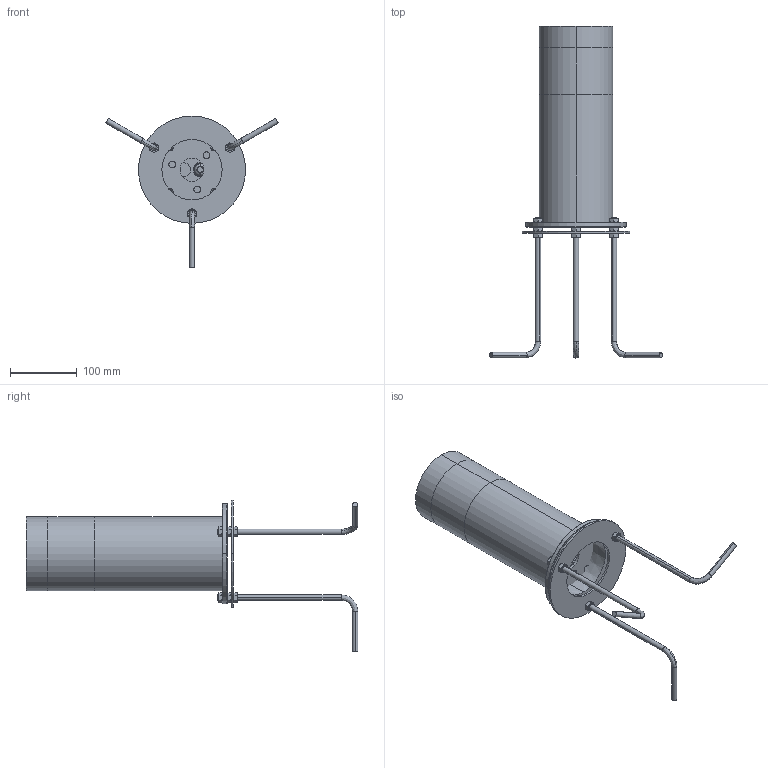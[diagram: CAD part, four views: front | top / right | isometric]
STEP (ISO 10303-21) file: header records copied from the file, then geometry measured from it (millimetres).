
FILE_DESCRIPTION((''),'2;1');
FILE_NAME('D9ADDENGTI_ASM_29_ASM','2024-09-20T',('C028'),(''),'CREO PARAMETRIC BY PTC INC, 2014190','CREO PARAMETRIC BY PTC INC, 2014190','');
FILE_SCHEMA(('CONFIG_CONTROL_DESIGN'));
Products named in the file (34): 9AD-07_300_11; 9AD-09GUDINGZUO_6; 9AB-04DUDINGZUOFANGSHUIQUAN_4; 9AB-03DUDINGZUOHOUGAI_4; PAD_1_135_2; FANGUANGSAI-1_1_135_2; FANGSHUISAI_1_135_2; PG9_ASM_1_ASM_135_ASM_2_ASM; PG9_ASM_2_ASM; 9AR-06TOUGUANGZHAODIZUO_12; 9AC-01SAIREBAN_4; PCB-00_7_5; M254_2; DIANPIAM_1; M3X501_1_6_9; M412MM_2; 2ISPINGDIAN_3; 9AD-10TOUGUANGZHAO_5; 9AD-12_6; M3_20_5_2; M4X12MM_3_1_1_2_2; HEP; ZHI_JIA_12; 0827_ASM; D9AD_ASM_11_ASM; 9AD-04_12; 9AD-01SHANGHAI_14; LI_BAN; 9AB_FA_LAN_PAN_56; 9AB-11_4__ANY_; M8LUOMU_3__ANY_; 9AB-10_5__ANY_; 9ABDIZUO_AF5_ASM_333_ASM_1_ANY__ASM; D9ADDENGTI_ASM_29_ASM
Assembly tree (70 placements, depth 5):
  D9ADDENGTI_ASM_29_ASM
    9AD-07_300_11
    D9AD_ASM_11_ASM
      9AD-09GUDINGZUO_6
      9AB-04DUDINGZUOFANGSHUIQUAN_4  x2
      9AB-03DUDINGZUOHOUGAI_4
      PG9_ASM_2_ASM
        PG9_ASM_1_ASM_135_ASM_2_ASM
          PAD_1_135_2
          FANGUANGSAI-1_1_135_2
          FANGSHUISAI_1_135_2
      9AR-06TOUGUANGZHAODIZUO_12
      9AC-01SAIREBAN_4
      PCB-00_7_5  x6
      M254_2  x12
      DIANPIAM_1  x2
      M3X501_1_6_9  x3
      M412MM_2  x4
      2ISPINGDIAN_3  x2
      9AD-10TOUGUANGZHAO_5
      9AD-12_6
      M3_20_5_2
      M4X12MM_3_1_1_2_2  x4
      0827_ASM
        HEP
        ZHI_JIA_12
    9AD-04_12
    9AD-01SHANGHAI_14
    LI_BAN
    9AB_FA_LAN_PAN_56
    9ABDIZUO_AF5_ASM_333_ASM_1_ANY__ASM
      9AB-11_4__ANY_  x3
      M8LUOMU_3__ANY_  x9
      9AB-10_5__ANY_
Bounding box: 257.75 x 495.35 x 226.5 mm (x, y, z)
Volume: 1117516.1 mm3; surface area: 578696.5 mm2
Topology: 65 solids, 65 shells, 2415 faces, 6527 edges, 4333 vertices
Faces by surface type: plane 1307, cylinder 548, cone 294, torus 176, bspline 76, sphere 14
Entity records: 64403 total; most frequent: CARTESIAN_POINT 23575, ORIENTED_EDGE 8496, DIRECTION 8320, EDGE_CURVE 4248, AXIS2_PLACEMENT_3D 2958, VERTEX_POINT 2825, VECTOR 2404, LINE 2404
